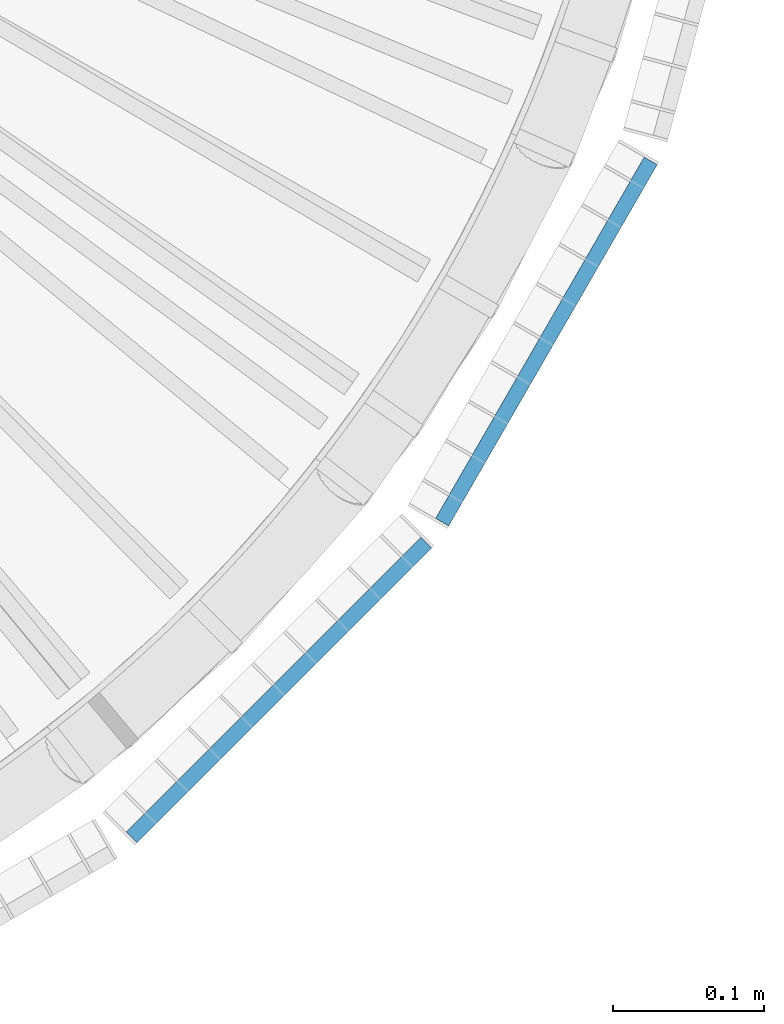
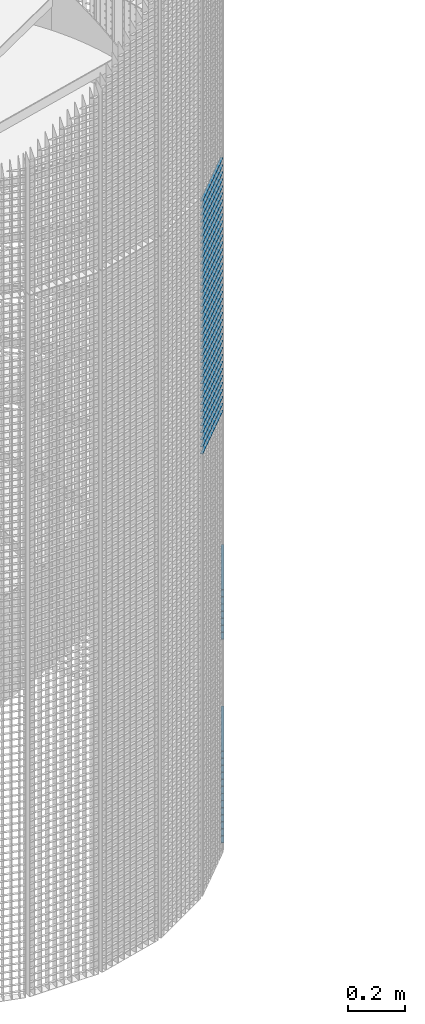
# One storey, part 256 of 1148: 59 beams, 2 elements without a shape of their own.
"""IFC2X3 building model written with IfcOpenShell, lengths in millimetres."""

from ifc_helpers import new_model, si_unit, frame, origin_with_axes, origin_2d_with_axis, place, context, subcontext, project, spatial, rectangle, extrude, material, type_object, element, aggregate, save


model = new_model("IFC2X3")

# Units and contexts
model_context = context("Model", 3, precision=1e-05, world=origin_with_axes())
body_context = subcontext(model_context, "Body", "Model", "MODEL_VIEW")
ifc_project = project(units=[si_unit("LENGTHUNIT", "METRE", prefix="MILLI"), si_unit("AREAUNIT", "SQUARE_METRE"), si_unit("VOLUMEUNIT", "CUBIC_METRE"), si_unit("MASSUNIT", "GRAM", prefix="KILO"), si_unit("TIMEUNIT", "SECOND"), si_unit("PLANEANGLEUNIT", "RADIAN"), si_unit("SOLIDANGLEUNIT", "STERADIAN"), si_unit("THERMODYNAMICTEMPERATUREUNIT", "DEGREE_CELSIUS"), si_unit("LUMINOUSINTENSITYUNIT", "LUMEN")], contexts=[model_context])

# Site, building, storey
site_placement = place(None, origin_with_axes())
site = spatial("IfcSite", under=ifc_project, at=site_placement, Name="Undefined", CompositionType="ELEMENT")
building_placement = place(site_placement, origin_with_axes())
building = spatial("IfcBuilding", under=site, at=building_placement, Name="Undefined", CompositionType="ELEMENT")
storey_placement = place(building_placement, origin_with_axes())
storey = spatial("IfcBuildingStorey", under=building, at=storey_placement, Name="Undefined", CompositionType="ELEMENT", Elevation=0.0)

# Assembly, beams
assembly_1_placement = place(storey_placement, origin_with_axes())
assembly_1 = element("IfcElementAssembly", 1, at=assembly_1_placement, inside=storey, Name="BORDURE", AssemblyPlace="NOTDEFINED", PredefinedType="NOTDEFINED")
ifc_material = material(Name="STEEL/S235JR")
beam_type = type_object("IfcBeamType", Name="PL2*10", PredefinedType="NOTDEFINED")
beam_1_placement = place(assembly_1_placement, frame((895.30396491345, -676.24804453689, 419.999999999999), z_axis=(0.866025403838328, -0.49999999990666, 0.0), x_axis=(0.49999999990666, 0.866025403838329, 0.0)))
beam_1 = element("IfcBeam", 2, at=beam_1_placement, type_object=beam_type, material=ifc_material, Name="ENTRETOISE", context=body_context, shape_type="SweptSolid", body=[
    extrude(rectangle(XDim=2.0, YDim=10.0, at=origin_2d_with_axis()), frame((275.999999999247, 9.09494701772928e-13, 1.53210777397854e-14), z_axis=(-1.0, 0.0, 0.0), x_axis=(0.0, -1.0, 0.0)), (0.0, 0.0, 1.0), 276.0),
])
beam_2_placement = place(assembly_1_placement, frame((895.303964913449, -676.248044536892, 899.999999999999), z_axis=(0.866025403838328, -0.49999999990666, 0.0), x_axis=(0.49999999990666, 0.866025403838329, 0.0)))
beam_2 = element("IfcBeam", 3, at=beam_2_placement, type_object=beam_type, material=ifc_material, Name="ENTRETOISE", context=body_context, shape_type="SweptSolid", body=[
    extrude(rectangle(XDim=2.0, YDim=10.0, at=origin_2d_with_axis()), frame((275.999999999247, 9.09494701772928e-13, 1.53210777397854e-14), z_axis=(-1.0, 0.0, 0.0), x_axis=(0.0, -1.0, 0.0)), (0.0, 0.0, 1.0), 276.0),
])
beam_3_placement = place(assembly_1_placement, frame((895.30396491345, -676.24804453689, 389.999999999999), z_axis=(0.866025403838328, -0.49999999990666, 0.0), x_axis=(0.49999999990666, 0.866025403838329, 0.0)))
beam_3 = element("IfcBeam", 4, at=beam_3_placement, type_object=beam_type, material=ifc_material, Name="ENTRETOISE", context=body_context, shape_type="SweptSolid", body=[
    extrude(rectangle(XDim=2.0, YDim=10.0, at=origin_2d_with_axis()), frame((275.999999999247, 9.09494701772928e-13, 1.53210777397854e-14), z_axis=(-1.0, 0.0, 0.0), x_axis=(0.0, -1.0, 0.0)), (0.0, 0.0, 1.0), 276.0),
])
beam_4_placement = place(assembly_1_placement, frame((895.303964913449, -676.248044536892, 929.999999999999), z_axis=(0.866025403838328, -0.49999999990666, 0.0), x_axis=(0.49999999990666, 0.866025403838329, 0.0)))
beam_4 = element("IfcBeam", 5, at=beam_4_placement, type_object=beam_type, material=ifc_material, Name="ENTRETOISE", context=body_context, shape_type="SweptSolid", body=[
    extrude(rectangle(XDim=2.0, YDim=10.0, at=origin_2d_with_axis()), frame((275.999999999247, 9.09494701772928e-13, 1.53210777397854e-14), z_axis=(-1.0, 0.0, 0.0), x_axis=(0.0, -1.0, 0.0)), (0.0, 0.0, 1.0), 276.0),
])
beam_5_placement = place(assembly_1_placement, frame((895.30396491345, -676.24804453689, 359.999999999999), z_axis=(0.866025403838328, -0.49999999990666, 0.0), x_axis=(0.49999999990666, 0.866025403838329, 0.0)))
beam_5 = element("IfcBeam", 6, at=beam_5_placement, type_object=beam_type, material=ifc_material, Name="ENTRETOISE", context=body_context, shape_type="SweptSolid", body=[
    extrude(rectangle(XDim=2.0, YDim=10.0, at=origin_2d_with_axis()), frame((275.999999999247, 9.09494701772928e-13, 1.53210777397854e-14), z_axis=(-1.0, 0.0, 0.0), x_axis=(0.0, -1.0, 0.0)), (0.0, 0.0, 1.0), 276.0),
])
beam_6_placement = place(assembly_1_placement, frame((895.30396491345, -676.24804453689, 329.999999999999), z_axis=(0.866025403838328, -0.49999999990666, 0.0), x_axis=(0.49999999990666, 0.866025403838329, 0.0)))
beam_6 = element("IfcBeam", 7, at=beam_6_placement, type_object=beam_type, material=ifc_material, Name="ENTRETOISE", context=body_context, shape_type="SweptSolid", body=[
    extrude(rectangle(XDim=2.0, YDim=10.0, at=origin_2d_with_axis()), frame((275.999999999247, 9.09494701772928e-13, 1.53210777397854e-14), z_axis=(-1.0, 0.0, 0.0), x_axis=(0.0, -1.0, 0.0)), (0.0, 0.0, 1.0), 276.0),
])
beam_7_placement = place(assembly_1_placement, frame((895.303964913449, -676.248044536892, 959.999999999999), z_axis=(0.866025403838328, -0.49999999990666, 0.0), x_axis=(0.49999999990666, 0.866025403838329, 0.0)))
beam_7 = element("IfcBeam", 8, at=beam_7_placement, type_object=beam_type, material=ifc_material, Name="ENTRETOISE", context=body_context, shape_type="SweptSolid", body=[
    extrude(rectangle(XDim=2.0, YDim=10.0, at=origin_2d_with_axis()), frame((275.999999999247, 9.09494701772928e-13, 1.53210777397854e-14), z_axis=(-1.0, 0.0, 0.0), x_axis=(0.0, -1.0, 0.0)), (0.0, 0.0, 1.0), 276.0),
])
beam_8_placement = place(assembly_1_placement, frame((895.30396491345, -676.24804453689, 299.999999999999), z_axis=(0.866025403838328, -0.49999999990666, 0.0), x_axis=(0.49999999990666, 0.866025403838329, 0.0)))
beam_8 = element("IfcBeam", 9, at=beam_8_placement, type_object=beam_type, material=ifc_material, Name="ENTRETOISE", context=body_context, shape_type="SweptSolid", body=[
    extrude(rectangle(XDim=2.0, YDim=10.0, at=origin_2d_with_axis()), frame((275.999999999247, 9.09494701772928e-13, 1.53210777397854e-14), z_axis=(-1.0, 0.0, 0.0), x_axis=(0.0, -1.0, 0.0)), (0.0, 0.0, 1.0), 276.0),
])
beam_9_placement = place(assembly_1_placement, frame((895.30396491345, -676.24804453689, 269.999999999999), z_axis=(0.866025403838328, -0.49999999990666, 0.0), x_axis=(0.49999999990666, 0.866025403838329, 0.0)))
beam_9 = element("IfcBeam", 10, at=beam_9_placement, type_object=beam_type, material=ifc_material, Name="ENTRETOISE", context=body_context, shape_type="SweptSolid", body=[
    extrude(rectangle(XDim=2.0, YDim=10.0, at=origin_2d_with_axis()), frame((275.999999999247, 9.09494701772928e-13, 1.53210777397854e-14), z_axis=(-1.0, 0.0, 0.0), x_axis=(0.0, -1.0, 0.0)), (0.0, 0.0, 1.0), 276.0),
])
beam_10_placement = place(assembly_1_placement, frame((895.303964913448, -676.248044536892, 989.999999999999), z_axis=(0.866025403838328, -0.49999999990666, 0.0), x_axis=(0.49999999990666, 0.866025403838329, 0.0)))
beam_10 = element("IfcBeam", 11, at=beam_10_placement, type_object=beam_type, material=ifc_material, Name="ENTRETOISE", context=body_context, shape_type="SweptSolid", body=[
    extrude(rectangle(XDim=2.0, YDim=10.0, at=origin_2d_with_axis()), frame((275.999999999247, 9.09494701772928e-13, 1.53210777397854e-14), z_axis=(-1.0, 0.0, 0.0), x_axis=(0.0, -1.0, 0.0)), (0.0, 0.0, 1.0), 276.0),
])
beam_11_placement = place(assembly_1_placement, frame((895.30396491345, -676.24804453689, 239.999999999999), z_axis=(0.866025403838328, -0.49999999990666, 0.0), x_axis=(0.49999999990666, 0.866025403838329, 0.0)))
beam_11 = element("IfcBeam", 12, at=beam_11_placement, type_object=beam_type, material=ifc_material, Name="ENTRETOISE", context=body_context, shape_type="SweptSolid", body=[
    extrude(rectangle(XDim=2.0, YDim=10.0, at=origin_2d_with_axis()), frame((275.999999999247, 9.09494701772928e-13, 1.53210777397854e-14), z_axis=(-1.0, 0.0, 0.0), x_axis=(0.0, -1.0, 0.0)), (0.0, 0.0, 1.0), 276.0),
])
beam_12_placement = place(assembly_1_placement, frame((895.303964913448, -676.248044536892, 1020.0), z_axis=(0.866025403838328, -0.49999999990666, 0.0), x_axis=(0.49999999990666, 0.866025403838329, 0.0)))
beam_12 = element("IfcBeam", 13, at=beam_12_placement, type_object=beam_type, material=ifc_material, Name="ENTRETOISE", context=body_context, shape_type="SweptSolid", body=[
    extrude(rectangle(XDim=2.0, YDim=10.0, at=origin_2d_with_axis()), frame((275.999999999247, 9.09494701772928e-13, 1.53210777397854e-14), z_axis=(-1.0, 0.0, 0.0), x_axis=(0.0, -1.0, 0.0)), (0.0, 0.0, 1.0), 276.0),
])
beam_13_placement = place(assembly_1_placement, frame((895.30396491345, -676.24804453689, 209.999999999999), z_axis=(0.866025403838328, -0.49999999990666, 0.0), x_axis=(0.49999999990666, 0.866025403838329, 0.0)))
beam_13 = element("IfcBeam", 14, at=beam_13_placement, type_object=beam_type, material=ifc_material, Name="ENTRETOISE", context=body_context, shape_type="SweptSolid", body=[
    extrude(rectangle(XDim=2.0, YDim=10.0, at=origin_2d_with_axis()), frame((275.999999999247, 9.09494701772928e-13, 1.53210777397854e-14), z_axis=(-1.0, 0.0, 0.0), x_axis=(0.0, -1.0, 0.0)), (0.0, 0.0, 1.0), 276.0),
])
beam_14_placement = place(assembly_1_placement, frame((895.30396491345, -676.24804453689, 179.999999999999), z_axis=(0.866025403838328, -0.49999999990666, 0.0), x_axis=(0.49999999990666, 0.866025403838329, 0.0)))
beam_14 = element("IfcBeam", 15, at=beam_14_placement, type_object=beam_type, material=ifc_material, Name="ENTRETOISE", context=body_context, shape_type="SweptSolid", body=[
    extrude(rectangle(XDim=2.0, YDim=10.0, at=origin_2d_with_axis()), frame((275.999999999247, 9.09494701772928e-13, 1.53210777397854e-14), z_axis=(-1.0, 0.0, 0.0), x_axis=(0.0, -1.0, 0.0)), (0.0, 0.0, 1.0), 276.0),
])
beam_15_placement = place(assembly_1_placement, frame((895.303964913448, -676.248044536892, 1050.0), z_axis=(0.866025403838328, -0.49999999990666, 0.0), x_axis=(0.49999999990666, 0.866025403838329, 0.0)))
beam_15 = element("IfcBeam", 16, at=beam_15_placement, type_object=beam_type, material=ifc_material, Name="ENTRETOISE", context=body_context, shape_type="SweptSolid", body=[
    extrude(rectangle(XDim=2.0, YDim=10.0, at=origin_2d_with_axis()), frame((275.999999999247, 9.09494701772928e-13, 1.53210777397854e-14), z_axis=(-1.0, 0.0, 0.0), x_axis=(0.0, -1.0, 0.0)), (0.0, 0.0, 1.0), 276.0),
])
beam_16_placement = place(assembly_1_placement, frame((895.30396491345, -676.24804453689, 149.999999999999), z_axis=(0.866025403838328, -0.49999999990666, 0.0), x_axis=(0.49999999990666, 0.866025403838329, 0.0)))
beam_16 = element("IfcBeam", 17, at=beam_16_placement, type_object=beam_type, material=ifc_material, Name="ENTRETOISE", context=body_context, shape_type="SweptSolid", body=[
    extrude(rectangle(XDim=2.0, YDim=10.0, at=origin_2d_with_axis()), frame((275.999999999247, 9.09494701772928e-13, 1.53210777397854e-14), z_axis=(-1.0, 0.0, 0.0), x_axis=(0.0, -1.0, 0.0)), (0.0, 0.0, 1.0), 276.0),
])
beam_17_placement = place(assembly_1_placement, frame((895.30396491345, -676.24804453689, 119.999999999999), z_axis=(0.866025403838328, -0.49999999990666, 0.0), x_axis=(0.49999999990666, 0.866025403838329, 0.0)))
beam_17 = element("IfcBeam", 18, at=beam_17_placement, type_object=beam_type, material=ifc_material, Name="ENTRETOISE", context=body_context, shape_type="SweptSolid", body=[
    extrude(rectangle(XDim=2.0, YDim=10.0, at=origin_2d_with_axis()), frame((275.999999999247, 9.09494701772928e-13, 1.53210777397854e-14), z_axis=(-1.0, 0.0, 0.0), x_axis=(0.0, -1.0, 0.0)), (0.0, 0.0, 1.0), 276.0),
])
beam_18_placement = place(assembly_1_placement, frame((895.303964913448, -676.248044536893, 1080.0), z_axis=(0.866025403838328, -0.49999999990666, 0.0), x_axis=(0.49999999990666, 0.866025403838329, 0.0)))
beam_18 = element("IfcBeam", 19, at=beam_18_placement, type_object=beam_type, material=ifc_material, Name="ENTRETOISE", context=body_context, shape_type="SweptSolid", body=[
    extrude(rectangle(XDim=2.0, YDim=10.0, at=origin_2d_with_axis()), frame((275.999999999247, 9.09494701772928e-13, 1.53210777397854e-14), z_axis=(-1.0, 0.0, 0.0), x_axis=(0.0, -1.0, 0.0)), (0.0, 0.0, 1.0), 276.0),
])
beam_19_placement = place(assembly_1_placement, frame((895.30396491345, -676.248044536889, 89.9999999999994), z_axis=(0.866025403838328, -0.49999999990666, 0.0), x_axis=(0.49999999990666, 0.866025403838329, 0.0)))
beam_19 = element("IfcBeam", 20, at=beam_19_placement, type_object=beam_type, material=ifc_material, Name="ENTRETOISE", context=body_context, shape_type="SweptSolid", body=[
    extrude(rectangle(XDim=2.0, YDim=10.0, at=origin_2d_with_axis()), frame((275.999999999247, 9.09494701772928e-13, 1.53210777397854e-14), z_axis=(-1.0, 0.0, 0.0), x_axis=(0.0, -1.0, 0.0)), (0.0, 0.0, 1.0), 276.0),
])
beam_20_placement = place(assembly_1_placement, frame((895.30396491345, -676.248044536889, 59.9999999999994), z_axis=(0.866025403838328, -0.49999999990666, 0.0), x_axis=(0.49999999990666, 0.866025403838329, 0.0)))
beam_20 = element("IfcBeam", 21, at=beam_20_placement, type_object=beam_type, material=ifc_material, Name="ENTRETOISE", context=body_context, shape_type="SweptSolid", body=[
    extrude(rectangle(XDim=2.0, YDim=10.0, at=origin_2d_with_axis()), frame((275.999999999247, 9.09494701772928e-13, 1.53210777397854e-14), z_axis=(-1.0, 0.0, 0.0), x_axis=(0.0, -1.0, 0.0)), (0.0, 0.0, 1.0), 276.0),
])
beam_21_placement = place(assembly_1_placement, frame((895.303964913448, -676.248044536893, 1110.0), z_axis=(0.866025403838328, -0.49999999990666, 0.0), x_axis=(0.49999999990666, 0.866025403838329, 0.0)))
beam_21 = element("IfcBeam", 22, at=beam_21_placement, type_object=beam_type, material=ifc_material, Name="ENTRETOISE", context=body_context, shape_type="SweptSolid", body=[
    extrude(rectangle(XDim=2.0, YDim=10.0, at=origin_2d_with_axis()), frame((275.999999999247, 9.09494701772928e-13, 1.53210777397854e-14), z_axis=(-1.0, 0.0, 0.0), x_axis=(0.0, -1.0, 0.0)), (0.0, 0.0, 1.0), 276.0),
])
beam_22_placement = place(assembly_1_placement, frame((895.30396491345, -676.248044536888, 29.9999999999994), z_axis=(0.866025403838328, -0.49999999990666, 0.0), x_axis=(0.49999999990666, 0.866025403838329, 0.0)))
beam_22 = element("IfcBeam", 23, at=beam_22_placement, type_object=beam_type, material=ifc_material, Name="ENTRETOISE", context=body_context, shape_type="SweptSolid", body=[
    extrude(rectangle(XDim=2.0, YDim=10.0, at=origin_2d_with_axis()), frame((275.999999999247, 9.09494701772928e-13, 1.53210777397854e-14), z_axis=(-1.0, 0.0, 0.0), x_axis=(0.0, -1.0, 0.0)), (0.0, 0.0, 1.0), 276.0),
])
aggregate(assembly_1, [beam_1, beam_2, beam_3, beam_4, beam_5, beam_6, beam_7, beam_8, beam_9, beam_10, beam_11, beam_12, beam_13, beam_14, beam_15, beam_16, beam_17, beam_18, beam_19, beam_20, beam_21, beam_22])

assembly_2_placement = place(storey_placement, origin_with_axes())
assembly_2 = element("IfcElementAssembly", 24, at=assembly_2_placement, inside=storey, Name="BORDURE", AssemblyPlace="NOTDEFINED", PredefinedType="NOTDEFINED")
beam_23_placement = place(assembly_2_placement, frame((689.771348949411, -884.927168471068, 2970.0), z_axis=(0.707106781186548, -0.707106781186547, 0.0), x_axis=(0.707106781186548, 0.707106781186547, 0.0)))
beam_23 = element("IfcBeam", 25, at=beam_23_placement, type_object=beam_type, material=ifc_material, Name="ENTRETOISE", context=body_context, shape_type="SweptSolid", body=[
    extrude(rectangle(XDim=2.0, YDim=10.0, at=origin_2d_with_axis()), frame((275.999999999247, 9.09494701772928e-13, 1.53210777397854e-14), z_axis=(-1.0, 0.0, 0.0), x_axis=(0.0, -1.0, 0.0)), (0.0, 0.0, 1.0), 276.0),
])
beam_24_placement = place(assembly_2_placement, frame((689.771348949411, -884.927168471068, 2940.0), z_axis=(0.707106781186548, -0.707106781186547, 0.0), x_axis=(0.707106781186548, 0.707106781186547, 0.0)))
beam_24 = element("IfcBeam", 26, at=beam_24_placement, type_object=beam_type, material=ifc_material, Name="ENTRETOISE", context=body_context, shape_type="SweptSolid", body=[
    extrude(rectangle(XDim=2.0, YDim=10.0, at=origin_2d_with_axis()), frame((275.999999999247, 9.09494701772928e-13, 1.53210777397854e-14), z_axis=(-1.0, 0.0, 0.0), x_axis=(0.0, -1.0, 0.0)), (0.0, 0.0, 1.0), 276.0),
])
beam_25_placement = place(assembly_2_placement, frame((689.771348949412, -884.927168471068, 2910.0), z_axis=(0.707106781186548, -0.707106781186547, 0.0), x_axis=(0.707106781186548, 0.707106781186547, 0.0)))
beam_25 = element("IfcBeam", 27, at=beam_25_placement, type_object=beam_type, material=ifc_material, Name="ENTRETOISE", context=body_context, shape_type="SweptSolid", body=[
    extrude(rectangle(XDim=2.0, YDim=10.0, at=origin_2d_with_axis()), frame((275.999999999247, 9.09494701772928e-13, 1.53210777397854e-14), z_axis=(-1.0, 0.0, 0.0), x_axis=(0.0, -1.0, 0.0)), (0.0, 0.0, 1.0), 276.0),
])
beam_26_placement = place(assembly_2_placement, frame((689.771348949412, -884.927168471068, 2880.0), z_axis=(0.707106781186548, -0.707106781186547, 0.0), x_axis=(0.707106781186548, 0.707106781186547, 0.0)))
beam_26 = element("IfcBeam", 28, at=beam_26_placement, type_object=beam_type, material=ifc_material, Name="ENTRETOISE", context=body_context, shape_type="SweptSolid", body=[
    extrude(rectangle(XDim=2.0, YDim=10.0, at=origin_2d_with_axis()), frame((275.999999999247, 9.09494701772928e-13, 1.53210777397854e-14), z_axis=(-1.0, 0.0, 0.0), x_axis=(0.0, -1.0, 0.0)), (0.0, 0.0, 1.0), 276.0),
])
beam_27_placement = place(assembly_2_placement, frame((689.771348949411, -884.927168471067, 2850.0), z_axis=(0.707106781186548, -0.707106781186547, 0.0), x_axis=(0.707106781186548, 0.707106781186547, 0.0)))
beam_27 = element("IfcBeam", 29, at=beam_27_placement, type_object=beam_type, material=ifc_material, Name="ENTRETOISE", context=body_context, shape_type="SweptSolid", body=[
    extrude(rectangle(XDim=2.0, YDim=10.0, at=origin_2d_with_axis()), frame((275.999999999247, 9.09494701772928e-13, 1.53210777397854e-14), z_axis=(-1.0, 0.0, 0.0), x_axis=(0.0, -1.0, 0.0)), (0.0, 0.0, 1.0), 276.0),
])
beam_28_placement = place(assembly_2_placement, frame((689.771348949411, -884.927168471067, 2820.0), z_axis=(0.707106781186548, -0.707106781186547, 0.0), x_axis=(0.707106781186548, 0.707106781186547, 0.0)))
beam_28 = element("IfcBeam", 30, at=beam_28_placement, type_object=beam_type, material=ifc_material, Name="ENTRETOISE", context=body_context, shape_type="SweptSolid", body=[
    extrude(rectangle(XDim=2.0, YDim=10.0, at=origin_2d_with_axis()), frame((275.999999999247, 9.09494701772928e-13, 1.53210777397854e-14), z_axis=(-1.0, 0.0, 0.0), x_axis=(0.0, -1.0, 0.0)), (0.0, 0.0, 1.0), 276.0),
])
beam_29_placement = place(assembly_2_placement, frame((689.771348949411, -884.927168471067, 2790.0), z_axis=(0.707106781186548, -0.707106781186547, 0.0), x_axis=(0.707106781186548, 0.707106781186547, 0.0)))
beam_29 = element("IfcBeam", 31, at=beam_29_placement, type_object=beam_type, material=ifc_material, Name="ENTRETOISE", context=body_context, shape_type="SweptSolid", body=[
    extrude(rectangle(XDim=2.0, YDim=10.0, at=origin_2d_with_axis()), frame((275.999999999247, 9.09494701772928e-13, 1.53210777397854e-14), z_axis=(-1.0, 0.0, 0.0), x_axis=(0.0, -1.0, 0.0)), (0.0, 0.0, 1.0), 276.0),
])
beam_30_placement = place(assembly_2_placement, frame((689.771348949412, -884.927168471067, 2760.0), z_axis=(0.707106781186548, -0.707106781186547, 0.0), x_axis=(0.707106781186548, 0.707106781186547, 0.0)))
beam_30 = element("IfcBeam", 32, at=beam_30_placement, type_object=beam_type, material=ifc_material, Name="ENTRETOISE", context=body_context, shape_type="SweptSolid", body=[
    extrude(rectangle(XDim=2.0, YDim=10.0, at=origin_2d_with_axis()), frame((275.999999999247, 9.09494701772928e-13, 1.53210777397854e-14), z_axis=(-1.0, 0.0, 0.0), x_axis=(0.0, -1.0, 0.0)), (0.0, 0.0, 1.0), 276.0),
])
beam_31_placement = place(assembly_2_placement, frame((689.771348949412, -884.927168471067, 2730.0), z_axis=(0.707106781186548, -0.707106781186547, 0.0), x_axis=(0.707106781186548, 0.707106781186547, 0.0)))
beam_31 = element("IfcBeam", 33, at=beam_31_placement, type_object=beam_type, material=ifc_material, Name="ENTRETOISE", context=body_context, shape_type="SweptSolid", body=[
    extrude(rectangle(XDim=2.0, YDim=10.0, at=origin_2d_with_axis()), frame((275.999999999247, 9.09494701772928e-13, 1.53210777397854e-14), z_axis=(-1.0, 0.0, 0.0), x_axis=(0.0, -1.0, 0.0)), (0.0, 0.0, 1.0), 276.0),
])
beam_32_placement = place(assembly_2_placement, frame((689.771348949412, -884.927168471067, 2700.0), z_axis=(0.707106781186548, -0.707106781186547, 0.0), x_axis=(0.707106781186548, 0.707106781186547, 0.0)))
beam_32 = element("IfcBeam", 34, at=beam_32_placement, type_object=beam_type, material=ifc_material, Name="ENTRETOISE", context=body_context, shape_type="SweptSolid", body=[
    extrude(rectangle(XDim=2.0, YDim=10.0, at=origin_2d_with_axis()), frame((275.999999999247, 9.09494701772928e-13, 1.53210777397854e-14), z_axis=(-1.0, 0.0, 0.0), x_axis=(0.0, -1.0, 0.0)), (0.0, 0.0, 1.0), 276.0),
])
beam_33_placement = place(assembly_2_placement, frame((689.771348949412, -884.927168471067, 2670.0), z_axis=(0.707106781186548, -0.707106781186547, 0.0), x_axis=(0.707106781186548, 0.707106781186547, 0.0)))
beam_33 = element("IfcBeam", 35, at=beam_33_placement, type_object=beam_type, material=ifc_material, Name="ENTRETOISE", context=body_context, shape_type="SweptSolid", body=[
    extrude(rectangle(XDim=2.0, YDim=10.0, at=origin_2d_with_axis()), frame((275.999999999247, 9.09494701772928e-13, 1.53210777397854e-14), z_axis=(-1.0, 0.0, 0.0), x_axis=(0.0, -1.0, 0.0)), (0.0, 0.0, 1.0), 276.0),
])
beam_34_placement = place(assembly_2_placement, frame((689.771348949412, -884.927168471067, 2640.0), z_axis=(0.707106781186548, -0.707106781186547, 0.0), x_axis=(0.707106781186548, 0.707106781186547, 0.0)))
beam_34 = element("IfcBeam", 36, at=beam_34_placement, type_object=beam_type, material=ifc_material, Name="ENTRETOISE", context=body_context, shape_type="SweptSolid", body=[
    extrude(rectangle(XDim=2.0, YDim=10.0, at=origin_2d_with_axis()), frame((275.999999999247, 9.09494701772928e-13, 1.53210777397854e-14), z_axis=(-1.0, 0.0, 0.0), x_axis=(0.0, -1.0, 0.0)), (0.0, 0.0, 1.0), 276.0),
])
beam_35_placement = place(assembly_2_placement, frame((689.771348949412, -884.927168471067, 2610.0), z_axis=(0.707106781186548, -0.707106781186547, 0.0), x_axis=(0.707106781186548, 0.707106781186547, 0.0)))
beam_35 = element("IfcBeam", 37, at=beam_35_placement, type_object=beam_type, material=ifc_material, Name="ENTRETOISE", context=body_context, shape_type="SweptSolid", body=[
    extrude(rectangle(XDim=2.0, YDim=10.0, at=origin_2d_with_axis()), frame((275.999999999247, 9.09494701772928e-13, 1.53210777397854e-14), z_axis=(-1.0, 0.0, 0.0), x_axis=(0.0, -1.0, 0.0)), (0.0, 0.0, 1.0), 276.0),
])
beam_36_placement = place(assembly_2_placement, frame((689.771348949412, -884.927168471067, 2580.0), z_axis=(0.707106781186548, -0.707106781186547, 0.0), x_axis=(0.707106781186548, 0.707106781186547, 0.0)))
beam_36 = element("IfcBeam", 38, at=beam_36_placement, type_object=beam_type, material=ifc_material, Name="ENTRETOISE", context=body_context, shape_type="SweptSolid", body=[
    extrude(rectangle(XDim=2.0, YDim=10.0, at=origin_2d_with_axis()), frame((275.999999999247, 9.09494701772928e-13, 1.53210777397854e-14), z_axis=(-1.0, 0.0, 0.0), x_axis=(0.0, -1.0, 0.0)), (0.0, 0.0, 1.0), 276.0),
])
beam_37_placement = place(assembly_2_placement, frame((689.771348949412, -884.927168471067, 2550.0), z_axis=(0.707106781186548, -0.707106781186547, 0.0), x_axis=(0.707106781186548, 0.707106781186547, 0.0)))
beam_37 = element("IfcBeam", 39, at=beam_37_placement, type_object=beam_type, material=ifc_material, Name="ENTRETOISE", context=body_context, shape_type="SweptSolid", body=[
    extrude(rectangle(XDim=2.0, YDim=10.0, at=origin_2d_with_axis()), frame((275.999999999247, 9.09494701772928e-13, 1.53210777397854e-14), z_axis=(-1.0, 0.0, 0.0), x_axis=(0.0, -1.0, 0.0)), (0.0, 0.0, 1.0), 276.0),
])
beam_38_placement = place(assembly_2_placement, frame((689.771348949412, -884.927168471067, 2520.0), z_axis=(0.707106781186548, -0.707106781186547, 0.0), x_axis=(0.707106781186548, 0.707106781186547, 0.0)))
beam_38 = element("IfcBeam", 40, at=beam_38_placement, type_object=beam_type, material=ifc_material, Name="ENTRETOISE", context=body_context, shape_type="SweptSolid", body=[
    extrude(rectangle(XDim=2.0, YDim=10.0, at=origin_2d_with_axis()), frame((275.999999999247, 9.09494701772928e-13, 1.53210777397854e-14), z_axis=(-1.0, 0.0, 0.0), x_axis=(0.0, -1.0, 0.0)), (0.0, 0.0, 1.0), 276.0),
])
beam_39_placement = place(assembly_2_placement, frame((689.771348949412, -884.927168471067, 2490.0), z_axis=(0.707106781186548, -0.707106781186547, 0.0), x_axis=(0.707106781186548, 0.707106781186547, 0.0)))
beam_39 = element("IfcBeam", 41, at=beam_39_placement, type_object=beam_type, material=ifc_material, Name="ENTRETOISE", context=body_context, shape_type="SweptSolid", body=[
    extrude(rectangle(XDim=2.0, YDim=10.0, at=origin_2d_with_axis()), frame((275.999999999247, 9.09494701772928e-13, 1.53210777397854e-14), z_axis=(-1.0, 0.0, 0.0), x_axis=(0.0, -1.0, 0.0)), (0.0, 0.0, 1.0), 276.0),
])
beam_40_placement = place(assembly_2_placement, frame((689.771348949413, -884.927168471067, 2460.0), z_axis=(0.707106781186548, -0.707106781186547, 0.0), x_axis=(0.707106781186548, 0.707106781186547, 0.0)))
beam_40 = element("IfcBeam", 42, at=beam_40_placement, type_object=beam_type, material=ifc_material, Name="ENTRETOISE", context=body_context, shape_type="SweptSolid", body=[
    extrude(rectangle(XDim=2.0, YDim=10.0, at=origin_2d_with_axis()), frame((275.999999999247, 9.09494701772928e-13, 1.53210777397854e-14), z_axis=(-1.0, 0.0, 0.0), x_axis=(0.0, -1.0, 0.0)), (0.0, 0.0, 1.0), 276.0),
])
beam_41_placement = place(assembly_2_placement, frame((689.771348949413, -884.927168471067, 2430.0), z_axis=(0.707106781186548, -0.707106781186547, 0.0), x_axis=(0.707106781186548, 0.707106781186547, 0.0)))
beam_41 = element("IfcBeam", 43, at=beam_41_placement, type_object=beam_type, material=ifc_material, Name="ENTRETOISE", context=body_context, shape_type="SweptSolid", body=[
    extrude(rectangle(XDim=2.0, YDim=10.0, at=origin_2d_with_axis()), frame((275.999999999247, 9.09494701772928e-13, 1.53210777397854e-14), z_axis=(-1.0, 0.0, 0.0), x_axis=(0.0, -1.0, 0.0)), (0.0, 0.0, 1.0), 276.0),
])
beam_42_placement = place(assembly_2_placement, frame((689.771348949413, -884.927168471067, 2400.0), z_axis=(0.707106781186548, -0.707106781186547, 0.0), x_axis=(0.707106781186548, 0.707106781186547, 0.0)))
beam_42 = element("IfcBeam", 44, at=beam_42_placement, type_object=beam_type, material=ifc_material, Name="ENTRETOISE", context=body_context, shape_type="SweptSolid", body=[
    extrude(rectangle(XDim=2.0, YDim=10.0, at=origin_2d_with_axis()), frame((275.999999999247, 9.09494701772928e-13, 1.53210777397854e-14), z_axis=(-1.0, 0.0, 0.0), x_axis=(0.0, -1.0, 0.0)), (0.0, 0.0, 1.0), 276.0),
])
beam_43_placement = place(assembly_2_placement, frame((689.771348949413, -884.927168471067, 2370.0), z_axis=(0.707106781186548, -0.707106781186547, 0.0), x_axis=(0.707106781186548, 0.707106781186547, 0.0)))
beam_43 = element("IfcBeam", 45, at=beam_43_placement, type_object=beam_type, material=ifc_material, Name="ENTRETOISE", context=body_context, shape_type="SweptSolid", body=[
    extrude(rectangle(XDim=2.0, YDim=10.0, at=origin_2d_with_axis()), frame((275.999999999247, 9.09494701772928e-13, 1.53210777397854e-14), z_axis=(-1.0, 0.0, 0.0), x_axis=(0.0, -1.0, 0.0)), (0.0, 0.0, 1.0), 276.0),
])
beam_44_placement = place(assembly_2_placement, frame((689.771348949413, -884.927168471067, 2340.0), z_axis=(0.707106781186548, -0.707106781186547, 0.0), x_axis=(0.707106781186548, 0.707106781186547, 0.0)))
beam_44 = element("IfcBeam", 46, at=beam_44_placement, type_object=beam_type, material=ifc_material, Name="ENTRETOISE", context=body_context, shape_type="SweptSolid", body=[
    extrude(rectangle(XDim=2.0, YDim=10.0, at=origin_2d_with_axis()), frame((275.999999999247, 9.09494701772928e-13, 1.53210777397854e-14), z_axis=(-1.0, 0.0, 0.0), x_axis=(0.0, -1.0, 0.0)), (0.0, 0.0, 1.0), 276.0),
])
beam_45_placement = place(assembly_2_placement, frame((689.771348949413, -884.927168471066, 2310.0), z_axis=(0.707106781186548, -0.707106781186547, 0.0), x_axis=(0.707106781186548, 0.707106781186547, 0.0)))
beam_45 = element("IfcBeam", 47, at=beam_45_placement, type_object=beam_type, material=ifc_material, Name="ENTRETOISE", context=body_context, shape_type="SweptSolid", body=[
    extrude(rectangle(XDim=2.0, YDim=10.0, at=origin_2d_with_axis()), frame((275.999999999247, 9.09494701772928e-13, 1.53210777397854e-14), z_axis=(-1.0, 0.0, 0.0), x_axis=(0.0, -1.0, 0.0)), (0.0, 0.0, 1.0), 276.0),
])
beam_46_placement = place(assembly_2_placement, frame((689.771348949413, -884.927168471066, 2280.0), z_axis=(0.707106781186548, -0.707106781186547, 0.0), x_axis=(0.707106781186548, 0.707106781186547, 0.0)))
beam_46 = element("IfcBeam", 48, at=beam_46_placement, type_object=beam_type, material=ifc_material, Name="ENTRETOISE", context=body_context, shape_type="SweptSolid", body=[
    extrude(rectangle(XDim=2.0, YDim=10.0, at=origin_2d_with_axis()), frame((275.999999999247, 9.09494701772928e-13, 1.53210777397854e-14), z_axis=(-1.0, 0.0, 0.0), x_axis=(0.0, -1.0, 0.0)), (0.0, 0.0, 1.0), 276.0),
])
beam_47_placement = place(assembly_2_placement, frame((689.771348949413, -884.927168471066, 2250.0), z_axis=(0.707106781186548, -0.707106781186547, 0.0), x_axis=(0.707106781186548, 0.707106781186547, 0.0)))
beam_47 = element("IfcBeam", 49, at=beam_47_placement, type_object=beam_type, material=ifc_material, Name="ENTRETOISE", context=body_context, shape_type="SweptSolid", body=[
    extrude(rectangle(XDim=2.0, YDim=10.0, at=origin_2d_with_axis()), frame((275.999999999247, 9.09494701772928e-13, 1.53210777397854e-14), z_axis=(-1.0, 0.0, 0.0), x_axis=(0.0, -1.0, 0.0)), (0.0, 0.0, 1.0), 276.0),
])
beam_48_placement = place(assembly_2_placement, frame((689.771348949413, -884.927168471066, 2220.0), z_axis=(0.707106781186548, -0.707106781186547, 0.0), x_axis=(0.707106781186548, 0.707106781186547, 0.0)))
beam_48 = element("IfcBeam", 50, at=beam_48_placement, type_object=beam_type, material=ifc_material, Name="ENTRETOISE", context=body_context, shape_type="SweptSolid", body=[
    extrude(rectangle(XDim=2.0, YDim=10.0, at=origin_2d_with_axis()), frame((275.999999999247, 9.09494701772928e-13, 1.53210777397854e-14), z_axis=(-1.0, 0.0, 0.0), x_axis=(0.0, -1.0, 0.0)), (0.0, 0.0, 1.0), 276.0),
])
beam_49_placement = place(assembly_2_placement, frame((689.771348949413, -884.927168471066, 2190.0), z_axis=(0.707106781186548, -0.707106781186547, 0.0), x_axis=(0.707106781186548, 0.707106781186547, 0.0)))
beam_49 = element("IfcBeam", 51, at=beam_49_placement, type_object=beam_type, material=ifc_material, Name="ENTRETOISE", context=body_context, shape_type="SweptSolid", body=[
    extrude(rectangle(XDim=2.0, YDim=10.0, at=origin_2d_with_axis()), frame((275.999999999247, 9.09494701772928e-13, 1.53210777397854e-14), z_axis=(-1.0, 0.0, 0.0), x_axis=(0.0, -1.0, 0.0)), (0.0, 0.0, 1.0), 276.0),
])
beam_50_placement = place(assembly_2_placement, frame((689.771348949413, -884.927168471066, 2160.0), z_axis=(0.707106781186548, -0.707106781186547, 0.0), x_axis=(0.707106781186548, 0.707106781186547, 0.0)))
beam_50 = element("IfcBeam", 52, at=beam_50_placement, type_object=beam_type, material=ifc_material, Name="ENTRETOISE", context=body_context, shape_type="SweptSolid", body=[
    extrude(rectangle(XDim=2.0, YDim=10.0, at=origin_2d_with_axis()), frame((275.999999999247, 9.09494701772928e-13, 1.53210777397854e-14), z_axis=(-1.0, 0.0, 0.0), x_axis=(0.0, -1.0, 0.0)), (0.0, 0.0, 1.0), 276.0),
])
beam_51_placement = place(assembly_2_placement, frame((689.771348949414, -884.927168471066, 2130.0), z_axis=(0.707106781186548, -0.707106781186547, 0.0), x_axis=(0.707106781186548, 0.707106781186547, 0.0)))
beam_51 = element("IfcBeam", 53, at=beam_51_placement, type_object=beam_type, material=ifc_material, Name="ENTRETOISE", context=body_context, shape_type="SweptSolid", body=[
    extrude(rectangle(XDim=2.0, YDim=10.0, at=origin_2d_with_axis()), frame((275.999999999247, 9.09494701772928e-13, 1.53210777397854e-14), z_axis=(-1.0, 0.0, 0.0), x_axis=(0.0, -1.0, 0.0)), (0.0, 0.0, 1.0), 276.0),
])
beam_52_placement = place(assembly_2_placement, frame((689.771348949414, -884.927168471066, 2100.0), z_axis=(0.707106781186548, -0.707106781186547, 0.0), x_axis=(0.707106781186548, 0.707106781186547, 0.0)))
beam_52 = element("IfcBeam", 54, at=beam_52_placement, type_object=beam_type, material=ifc_material, Name="ENTRETOISE", context=body_context, shape_type="SweptSolid", body=[
    extrude(rectangle(XDim=2.0, YDim=10.0, at=origin_2d_with_axis()), frame((275.999999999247, 9.09494701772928e-13, 1.53210777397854e-14), z_axis=(-1.0, 0.0, 0.0), x_axis=(0.0, -1.0, 0.0)), (0.0, 0.0, 1.0), 276.0),
])
beam_53_placement = place(assembly_2_placement, frame((689.771348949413, -884.927168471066, 2070.0), z_axis=(0.707106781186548, -0.707106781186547, 0.0), x_axis=(0.707106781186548, 0.707106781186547, 0.0)))
beam_53 = element("IfcBeam", 55, at=beam_53_placement, type_object=beam_type, material=ifc_material, Name="ENTRETOISE", context=body_context, shape_type="SweptSolid", body=[
    extrude(rectangle(XDim=2.0, YDim=10.0, at=origin_2d_with_axis()), frame((275.999999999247, 9.09494701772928e-13, 1.53210777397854e-14), z_axis=(-1.0, 0.0, 0.0), x_axis=(0.0, -1.0, 0.0)), (0.0, 0.0, 1.0), 276.0),
])
beam_54_placement = place(assembly_2_placement, frame((689.771348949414, -884.927168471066, 2040.0), z_axis=(0.707106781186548, -0.707106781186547, 0.0), x_axis=(0.707106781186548, 0.707106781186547, 0.0)))
beam_54 = element("IfcBeam", 56, at=beam_54_placement, type_object=beam_type, material=ifc_material, Name="ENTRETOISE", context=body_context, shape_type="SweptSolid", body=[
    extrude(rectangle(XDim=2.0, YDim=10.0, at=origin_2d_with_axis()), frame((275.999999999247, 9.09494701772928e-13, 1.53210777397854e-14), z_axis=(-1.0, 0.0, 0.0), x_axis=(0.0, -1.0, 0.0)), (0.0, 0.0, 1.0), 276.0),
])
beam_55_placement = place(assembly_2_placement, frame((689.771348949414, -884.927168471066, 2010.0), z_axis=(0.707106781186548, -0.707106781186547, 0.0), x_axis=(0.707106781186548, 0.707106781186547, 0.0)))
beam_55 = element("IfcBeam", 57, at=beam_55_placement, type_object=beam_type, material=ifc_material, Name="ENTRETOISE", context=body_context, shape_type="SweptSolid", body=[
    extrude(rectangle(XDim=2.0, YDim=10.0, at=origin_2d_with_axis()), frame((275.999999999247, 9.09494701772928e-13, 1.53210777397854e-14), z_axis=(-1.0, 0.0, 0.0), x_axis=(0.0, -1.0, 0.0)), (0.0, 0.0, 1.0), 276.0),
])
beam_56_placement = place(assembly_2_placement, frame((689.771348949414, -884.927168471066, 1980.0), z_axis=(0.707106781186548, -0.707106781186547, 0.0), x_axis=(0.707106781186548, 0.707106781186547, 0.0)))
beam_56 = element("IfcBeam", 58, at=beam_56_placement, type_object=beam_type, material=ifc_material, Name="ENTRETOISE", context=body_context, shape_type="SweptSolid", body=[
    extrude(rectangle(XDim=2.0, YDim=10.0, at=origin_2d_with_axis()), frame((275.999999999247, 9.09494701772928e-13, 1.53210777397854e-14), z_axis=(-1.0, 0.0, 0.0), x_axis=(0.0, -1.0, 0.0)), (0.0, 0.0, 1.0), 276.0),
])
beam_57_placement = place(assembly_2_placement, frame((689.771348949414, -884.927168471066, 1950.0), z_axis=(0.707106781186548, -0.707106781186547, 0.0), x_axis=(0.707106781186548, 0.707106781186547, 0.0)))
beam_57 = element("IfcBeam", 59, at=beam_57_placement, type_object=beam_type, material=ifc_material, Name="ENTRETOISE", context=body_context, shape_type="SweptSolid", body=[
    extrude(rectangle(XDim=2.0, YDim=10.0, at=origin_2d_with_axis()), frame((275.999999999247, 9.09494701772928e-13, 1.53210777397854e-14), z_axis=(-1.0, 0.0, 0.0), x_axis=(0.0, -1.0, 0.0)), (0.0, 0.0, 1.0), 276.0),
])
beam_58_placement = place(assembly_2_placement, frame((689.771348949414, -884.927168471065, 1920.0), z_axis=(0.707106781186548, -0.707106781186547, 0.0), x_axis=(0.707106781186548, 0.707106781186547, 0.0)))
beam_58 = element("IfcBeam", 60, at=beam_58_placement, type_object=beam_type, material=ifc_material, Name="ENTRETOISE", context=body_context, shape_type="SweptSolid", body=[
    extrude(rectangle(XDim=2.0, YDim=10.0, at=origin_2d_with_axis()), frame((275.999999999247, 9.09494701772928e-13, 1.53210777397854e-14), z_axis=(-1.0, 0.0, 0.0), x_axis=(0.0, -1.0, 0.0)), (0.0, 0.0, 1.0), 276.0),
])
beam_59_placement = place(assembly_2_placement, frame((689.771348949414, -884.927168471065, 1890.0), z_axis=(0.707106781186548, -0.707106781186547, 0.0), x_axis=(0.707106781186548, 0.707106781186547, 0.0)))
beam_59 = element("IfcBeam", 61, at=beam_59_placement, type_object=beam_type, material=ifc_material, Name="ENTRETOISE", context=body_context, shape_type="SweptSolid", body=[
    extrude(rectangle(XDim=2.0, YDim=10.0, at=origin_2d_with_axis()), frame((275.999999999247, 9.09494701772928e-13, 1.53210777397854e-14), z_axis=(-1.0, 0.0, 0.0), x_axis=(0.0, -1.0, 0.0)), (0.0, 0.0, 1.0), 276.0),
])
aggregate(assembly_2, [beam_23, beam_24, beam_25, beam_26, beam_27, beam_28, beam_29, beam_30, beam_31, beam_32, beam_33, beam_34, beam_35, beam_36, beam_37, beam_38, beam_39, beam_40, beam_41, beam_42, beam_43, beam_44, beam_45, beam_46, beam_47, beam_48, beam_49, beam_50, beam_51, beam_52, beam_53, beam_54, beam_55, beam_56, beam_57, beam_58, beam_59])

save(model, "model.ifc")
